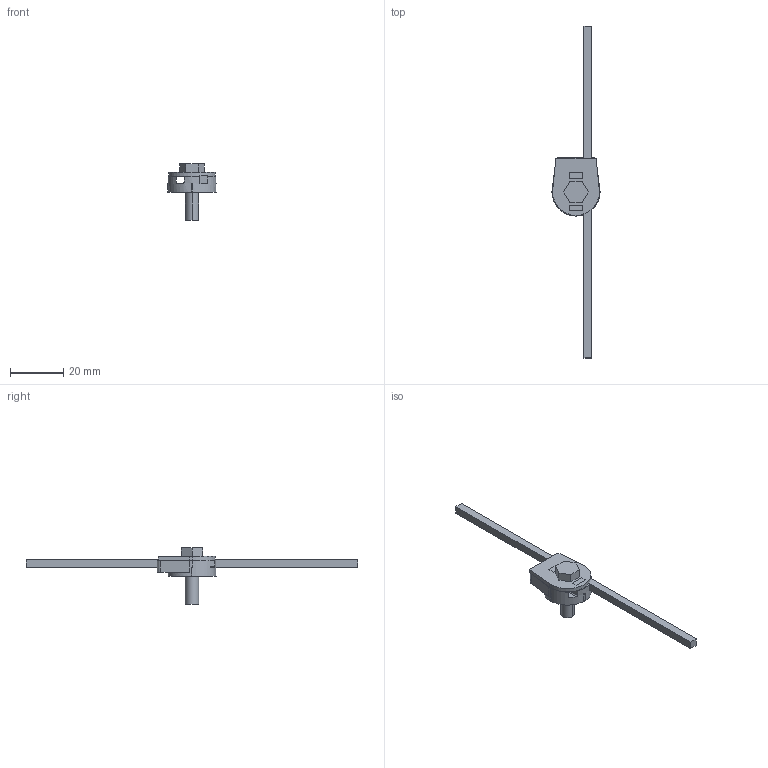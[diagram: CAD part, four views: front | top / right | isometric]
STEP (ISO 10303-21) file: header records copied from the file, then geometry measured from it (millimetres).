
FILE_DESCRIPTION (( 'STEP AP203' ), '1' );
FILE_NAME ('ZF_VF_L33_A10.step', '2010-03-09T13:32:33', ( 'fabio' ), ( '' ), 'SwSTEP 2.0', 'SolidWorks 2009', '' );
FILE_SCHEMA (( 'CONFIG_CONTROL_DESIGN' ));
Length unit declared in the file: millimetre
Products named in the file (5): Pizzato_supporto-leva_serie_pesanti_263; ZF_VF_L33_A10; Pizzato_piastrina_aste_pesanti_261; Vite_aste_pesanti; Pizzato_asta_quadra_3x3
Assembly tree (4 placements, depth 2):
  ZF_VF_L33_A10
    Pizzato_asta_quadra_3x3
    Pizzato_supporto-leva_serie_pesanti_263
    Vite_aste_pesanti
    Pizzato_piastrina_aste_pesanti_261
Bounding box: 18.4 x 125 x 21.3 mm (x, y, z)
Volume: 3375.7 mm3; surface area: 4206.1 mm2
Topology: 4 solids, 4 shells, 235 faces, 666 edges, 444 vertices
Faces by surface type: plane 131, cylinder 104
Entity records: 8229 total; most frequent: DIRECTION 1370, CARTESIAN_POINT 1364, ORIENTED_EDGE 1332, EDGE_CURVE 666, AXIS2_PLACEMENT_3D 464, VERTEX_POINT 444, LINE 442, VECTOR 442
